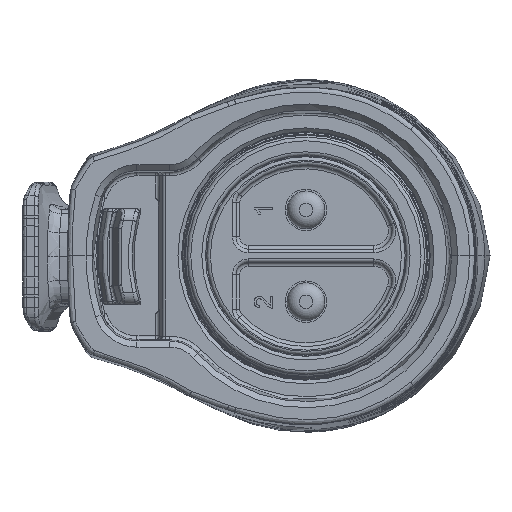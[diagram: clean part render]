
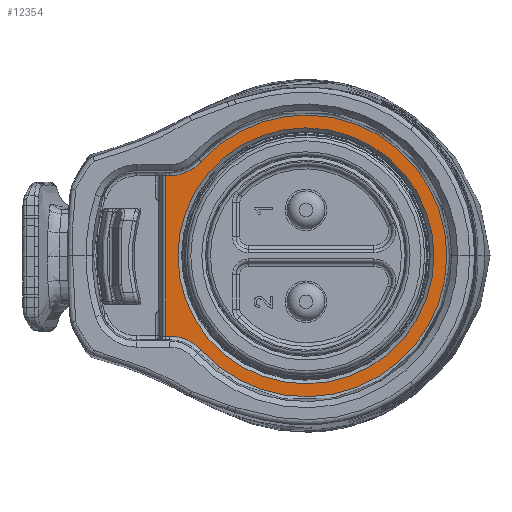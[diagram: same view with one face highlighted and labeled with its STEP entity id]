
A CAD part, left-side view. The second image highlights one B-rep face of the part: STEP entity #12354.
In plain terms, the highlighted planar face has unit normal (-1, 0, 0).
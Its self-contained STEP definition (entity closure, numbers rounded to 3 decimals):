
#713 = VERTEX_POINT ( 'NONE', #51867 ) ;
#841 = VERTEX_POINT ( 'NONE', #40830 ) ;
#1893 = VECTOR ( 'NONE', #3739, 1000. ) ;
#2024 = LINE ( 'NONE', #55761, #62072 ) ;
#2752 = CARTESIAN_POINT ( 'NONE',  ( 11.696, 11.113, 6.553 ) ) ;
#3135 = PLANE ( 'NONE',  #33748 ) ;
#3739 = DIRECTION ( 'NONE',  ( 0., 1., 0. ) ) ;
#3787 = DIRECTION ( 'NONE',  ( 0., 0., 1. ) ) ;
#4875 = DIRECTION ( 'NONE',  ( 0., 0., 1. ) ) ;
#5076 = EDGE_CURVE ( 'NONE', #43178, #43178, #13854, .T. ) ;
#6268 = EDGE_CURVE ( 'NONE', #841, #23564, #84174, .T. ) ;
#9954 = CARTESIAN_POINT ( 'NONE',  ( 11.696, 11.113, -10. ) ) ;
#10346 = CARTESIAN_POINT ( 'NONE',  ( 11.696, 11.44, -6.553 ) ) ;
#12354 = ADVANCED_FACE ( 'NONE', ( #70958, #57732 ), #3135, .T. ) ;
#13557 = CIRCLE ( 'NONE', #79700, 11.503 ) ;
#13854 = CIRCLE ( 'NONE', #25144, 10.45 ) ;
#14577 = VECTOR ( 'NONE', #37565, 1000. ) ;
#15035 = DIRECTION ( 'NONE',  ( -1., 0., 0. ) ) ;
#16303 = CARTESIAN_POINT ( 'NONE',  ( 11.696, 0., 10.45 ) ) ;
#16406 = VERTEX_POINT ( 'NONE', #2752 ) ;
#16983 = DIRECTION ( 'NONE',  ( 1., 0., 0. ) ) ;
#17050 = VERTEX_POINT ( 'NONE', #10346 ) ;
#23564 = VERTEX_POINT ( 'NONE', #47366 ) ;
#24009 = ORIENTED_EDGE ( 'NONE', *, *, #6268, .T. ) ;
#24451 = LINE ( 'NONE', #64062, #1893 ) ;
#25144 = AXIS2_PLACEMENT_3D ( 'NONE', #58573, #77071, #77951 ) ;
#28006 = EDGE_LOOP ( 'NONE', ( #50404, #53811, #84395, #24009, #65523, #74952 ) ) ;
#28247 = EDGE_CURVE ( 'NONE', #713, #16406, #76117, .T. ) ;
#28810 = EDGE_CURVE ( 'NONE', #17050, #841, #2024, .T. ) ;
#33748 = AXIS2_PLACEMENT_3D ( 'NONE', #78859, #70519, #4875 ) ;
#35067 = EDGE_LOOP ( 'NONE', ( #48237 ) ) ;
#37565 = DIRECTION ( 'NONE',  ( 0., 0., -1. ) ) ;
#39735 = EDGE_CURVE ( 'NONE', #16406, #79482, #24451, .T. ) ;
#40830 = CARTESIAN_POINT ( 'NONE',  ( 11.696, 11.113, -6.553 ) ) ;
#43178 = VERTEX_POINT ( 'NONE', #16303 ) ;
#47366 = CARTESIAN_POINT ( 'NONE',  ( 11.696, 8.551, -7.694 ) ) ;
#48237 = ORIENTED_EDGE ( 'NONE', *, *, #5076, .T. ) ;
#48484 = DIRECTION ( 'NONE',  ( 0., 0., 1. ) ) ;
#50404 = ORIENTED_EDGE ( 'NONE', *, *, #39735, .T. ) ;
#51180 = CARTESIAN_POINT ( 'NONE',  ( 11.696, 11.44, -3.9 ) ) ;
#51396 = EDGE_CURVE ( 'NONE', #79482, #17050, #71019, .T. ) ;
#51867 = CARTESIAN_POINT ( 'NONE',  ( 11.696, 8.551, 7.694 ) ) ;
#53283 = AXIS2_PLACEMENT_3D ( 'NONE', #9954, #16983, #3787 ) ;
#53659 = AXIS2_PLACEMENT_3D ( 'NONE', #81931, #67460, #48484 ) ;
#53811 = ORIENTED_EDGE ( 'NONE', *, *, #51396, .T. ) ;
#55761 = CARTESIAN_POINT ( 'NONE',  ( 11.696, 13.796, -6.553 ) ) ;
#57732 = FACE_OUTER_BOUND ( 'NONE', #28006, .T. ) ;
#58573 = CARTESIAN_POINT ( 'NONE',  ( 11.696, 0., 0. ) ) ;
#62072 = VECTOR ( 'NONE', #83010, 1000. ) ;
#62171 = DIRECTION ( 'NONE',  ( 0., 0., 1. ) ) ;
#64062 = CARTESIAN_POINT ( 'NONE',  ( 11.696, 13.796, 6.553 ) ) ;
#65523 = ORIENTED_EDGE ( 'NONE', *, *, #68588, .T. ) ;
#67460 = DIRECTION ( 'NONE',  ( 1., 0., 0. ) ) ;
#68588 = EDGE_CURVE ( 'NONE', #23564, #713, #13557, .T. ) ;
#70519 = DIRECTION ( 'NONE',  ( -1., 0., 0. ) ) ;
#70958 = FACE_BOUND ( 'NONE', #35067, .T. ) ;
#71019 = LINE ( 'NONE', #51180, #14577 ) ;
#74952 = ORIENTED_EDGE ( 'NONE', *, *, #28247, .T. ) ;
#76117 = CIRCLE ( 'NONE', #53659, 3.447 ) ;
#77071 = DIRECTION ( 'NONE',  ( 1., 0., 0. ) ) ;
#77951 = DIRECTION ( 'NONE',  ( 0., 0., 1. ) ) ;
#78859 = CARTESIAN_POINT ( 'NONE',  ( 11.696, 13.796, -3.9 ) ) ;
#79482 = VERTEX_POINT ( 'NONE', #86597 ) ;
#79700 = AXIS2_PLACEMENT_3D ( 'NONE', #81951, #15035, #62171 ) ;
#81931 = CARTESIAN_POINT ( 'NONE',  ( 11.696, 11.113, 10. ) ) ;
#81951 = CARTESIAN_POINT ( 'NONE',  ( 11.696, 0., 0. ) ) ;
#83010 = DIRECTION ( 'NONE',  ( 0., -1., 0. ) ) ;
#84174 = CIRCLE ( 'NONE', #53283, 3.447 ) ;
#84395 = ORIENTED_EDGE ( 'NONE', *, *, #28810, .T. ) ;
#86597 = CARTESIAN_POINT ( 'NONE',  ( 11.696, 11.44, 6.553 ) ) ;
